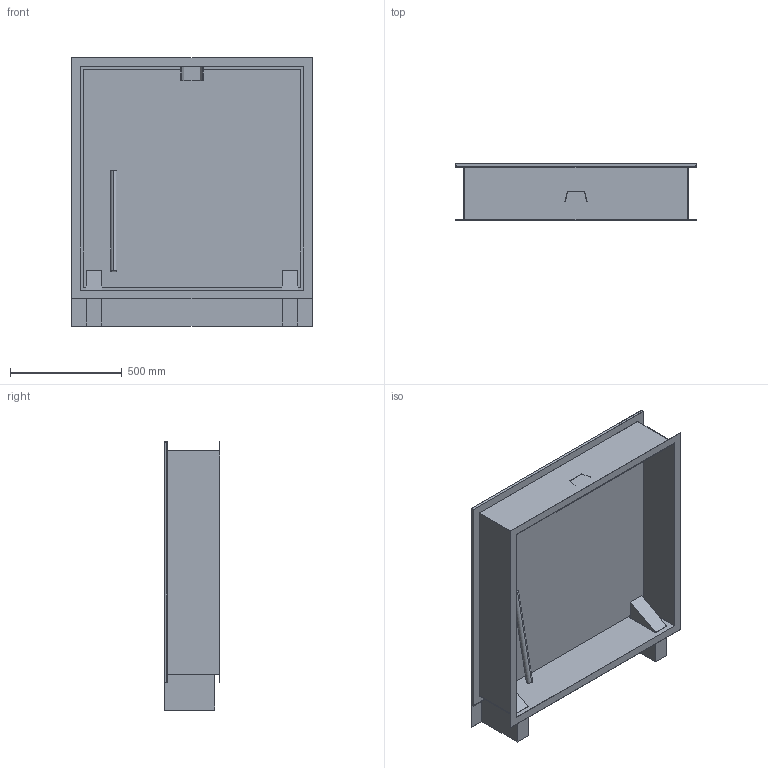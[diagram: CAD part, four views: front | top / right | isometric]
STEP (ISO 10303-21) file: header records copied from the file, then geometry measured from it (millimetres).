
FILE_DESCRIPTION((''),'2;1');
FILE_NAME('52001450','2022-11-21T07:09:22',('hrl'),('HUBER SE'),'CREO PARAMETRIC BY PTC INC, 2021184','CREO PARAMETRIC BY PTC INC, 2021184','');
FILE_SCHEMA(('AUTOMOTIVE_DESIGN { 1 0 10303 214 1 1 1 1 }'));
Length unit declared in the file: millimetre
Products named in the file (1): 52001450
Bounding box: 1078 x 250 x 1200 mm (x, y, z)
Volume: 72211381.8 mm3; surface area: 5646633.7 mm2
Topology: 2 solids, 2 shells, 80 faces, 212 edges, 140 vertices
Faces by surface type: plane 72, cylinder 8
Entity records: 3065 total; most frequent: CARTESIAN_POINT 434, ORIENTED_EDGE 424, DIRECTION 392, EDGE_CURVE 212, VECTOR 192, LINE 192, VERTEX_POINT 140, COLOUR_RGB 106
